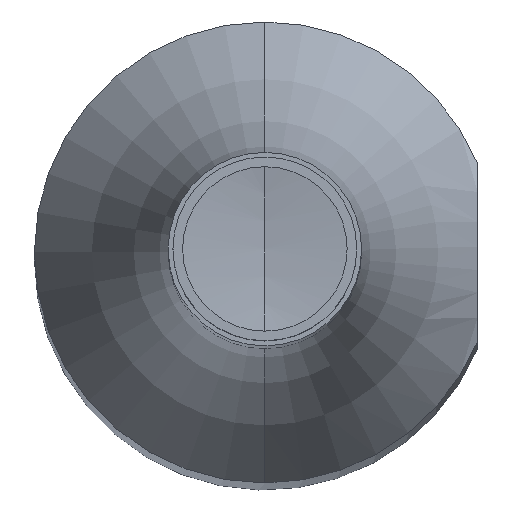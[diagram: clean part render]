
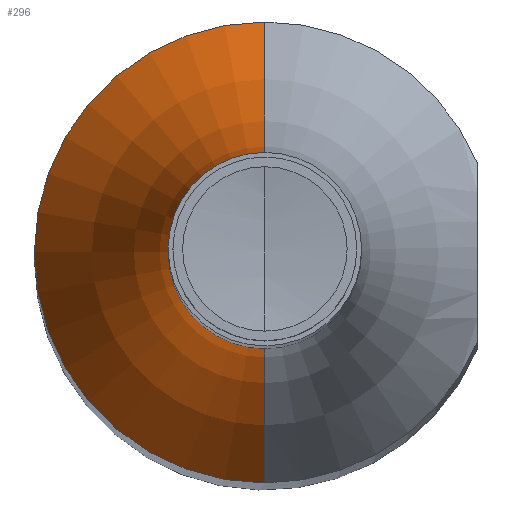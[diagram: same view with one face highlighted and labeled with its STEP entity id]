
A CAD part, top view. The second image highlights one B-rep face of the part: STEP entity #296.
In plain terms, the highlighted toroidal (fillet/blend) face has major radius 16.295 mm and minor radius 14.295 mm.
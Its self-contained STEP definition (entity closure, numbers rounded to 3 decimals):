
#10 = CARTESIAN_POINT ( 'NONE',  ( 0., -16.295, -33.883 ) ) ;
#36 = VERTEX_POINT ( 'NONE', #193 ) ;
#51 = DIRECTION ( 'NONE',  ( 0., -1., 0. ) ) ;
#53 = AXIS2_PLACEMENT_3D ( 'NONE', #10, #337, #377 ) ;
#61 = EDGE_CURVE ( 'NONE', #36, #83, #288, .T. ) ;
#69 = AXIS2_PLACEMENT_3D ( 'NONE', #190, #473, #349 ) ;
#81 = ORIENTED_EDGE ( 'NONE', *, *, #269, .F. ) ;
#83 = VERTEX_POINT ( 'NONE', #470 ) ;
#86 = EDGE_CURVE ( 'NONE', #83, #489, #129, .T. ) ;
#91 = CIRCLE ( 'NONE', #53, 14.295 ) ;
#94 = CARTESIAN_POINT ( 'NONE',  ( 0., 0., -33.883 ) ) ;
#110 = CIRCLE ( 'NONE', #530, 4.765 ) ;
#129 = CIRCLE ( 'NONE', #217, 2. ) ;
#135 = DIRECTION ( 'NONE',  ( 0., 0., -1. ) ) ;
#165 = CARTESIAN_POINT ( 'NONE',  ( 0., 0., -33.883 ) ) ;
#170 = CARTESIAN_POINT ( 'NONE',  ( 0., 2., -33.883 ) ) ;
#183 = CARTESIAN_POINT ( 'NONE',  ( 0., 4.765, -42.333 ) ) ;
#190 = CARTESIAN_POINT ( 'NONE',  ( 0., 0., -33.883 ) ) ;
#193 = CARTESIAN_POINT ( 'NONE',  ( 0., -2., -33.883 ) ) ;
#196 = CARTESIAN_POINT ( 'NONE',  ( 0., 0., -42.333 ) ) ;
#217 = AXIS2_PLACEMENT_3D ( 'NONE', #94, #135, #51 ) ;
#241 = VERTEX_POINT ( 'NONE', #363 ) ;
#267 = FACE_OUTER_BOUND ( 'NONE', #483, .T. ) ;
#269 = EDGE_CURVE ( 'NONE', #241, #369, #110, .T. ) ;
#288 = CIRCLE ( 'NONE', #466, 2. ) ;
#291 = DIRECTION ( 'NONE',  ( 0., 0., 1. ) ) ;
#296 = ADVANCED_FACE ( 'NONE', ( #267 ), #297, .F. ) ;
#297 = TOROIDAL_SURFACE ( 'NONE', #69, 16.295, 14.295 ) ;
#319 = ORIENTED_EDGE ( 'NONE', *, *, #469, .T. ) ;
#331 = DIRECTION ( 'NONE',  ( 0., 0., -1. ) ) ;
#337 = DIRECTION ( 'NONE',  ( 1., 0., 0. ) ) ;
#349 = DIRECTION ( 'NONE',  ( 0., 1., 0. ) ) ;
#357 = DIRECTION ( 'NONE',  ( 0., 0., -1. ) ) ;
#361 = CIRCLE ( 'NONE', #372, 14.295 ) ;
#363 = CARTESIAN_POINT ( 'NONE',  ( 0., -4.765, -42.333 ) ) ;
#369 = VERTEX_POINT ( 'NONE', #183 ) ;
#372 = AXIS2_PLACEMENT_3D ( 'NONE', #502, #375, #291 ) ;
#375 = DIRECTION ( 'NONE',  ( -1., 0., 0. ) ) ;
#377 = DIRECTION ( 'NONE',  ( 0., 1., 0. ) ) ;
#389 = ORIENTED_EDGE ( 'NONE', *, *, #86, .T. ) ;
#404 = ORIENTED_EDGE ( 'NONE', *, *, #61, .T. ) ;
#421 = EDGE_CURVE ( 'NONE', #369, #489, #361, .T. ) ;
#441 = ORIENTED_EDGE ( 'NONE', *, *, #421, .F. ) ;
#444 = DIRECTION ( 'NONE',  ( 0., 1., 0. ) ) ;
#454 = DIRECTION ( 'NONE',  ( 0., -1., 0. ) ) ;
#466 = AXIS2_PLACEMENT_3D ( 'NONE', #165, #331, #454 ) ;
#469 = EDGE_CURVE ( 'NONE', #241, #36, #91, .T. ) ;
#470 = CARTESIAN_POINT ( 'NONE',  ( -2., 0., -33.883 ) ) ;
#473 = DIRECTION ( 'NONE',  ( 0., 0., -1. ) ) ;
#483 = EDGE_LOOP ( 'NONE', ( #81, #319, #404, #389, #441 ) ) ;
#489 = VERTEX_POINT ( 'NONE', #170 ) ;
#502 = CARTESIAN_POINT ( 'NONE',  ( 0., 16.295, -33.883 ) ) ;
#530 = AXIS2_PLACEMENT_3D ( 'NONE', #196, #357, #444 ) ;
